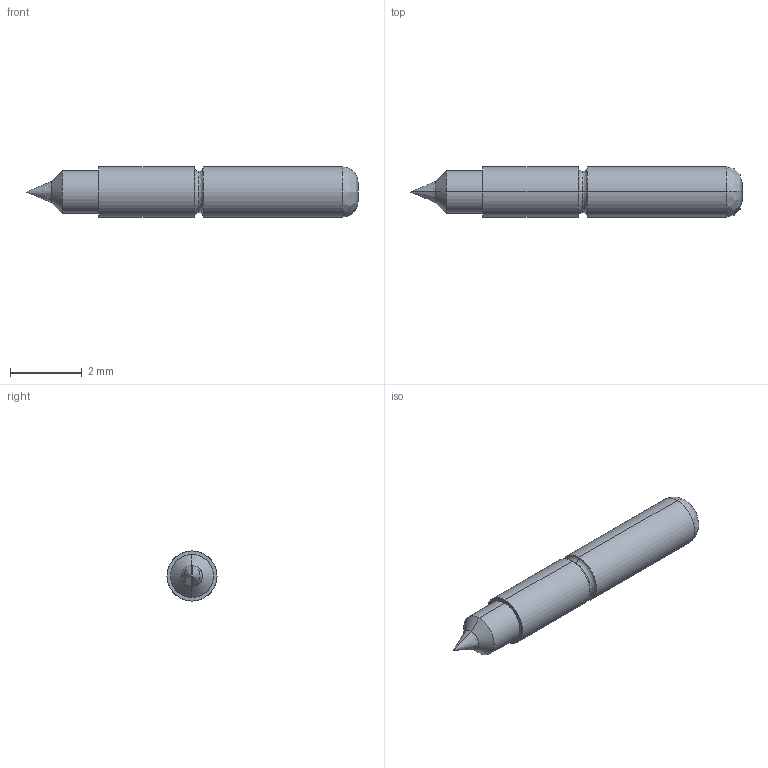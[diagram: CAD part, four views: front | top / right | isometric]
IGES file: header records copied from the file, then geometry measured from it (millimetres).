
Start section: SolidWorks IGES file using analytic representation for surfaces
Global section: file name: Z:\probe solid model mockups\Solidworks models\IGES Files\HPA-64\HPA-64-9.IGS; native system: SolidWorks 2006 by SolidWorks Corporation; preprocessor: SolidWorks 2006 by SolidWorks Corporation; author: tsakatani; date: 071220.100441; units: inch
Bounding box: 9.27 x 1.4 x 1.4 mm (x, y, z)
Surface area: 39 mm2 (no closed solid volume)
Topology: 0 solids, 0 shells, 18 faces, 112 edges, 110 vertices
Faces by surface type: revolution 10, bspline 8
